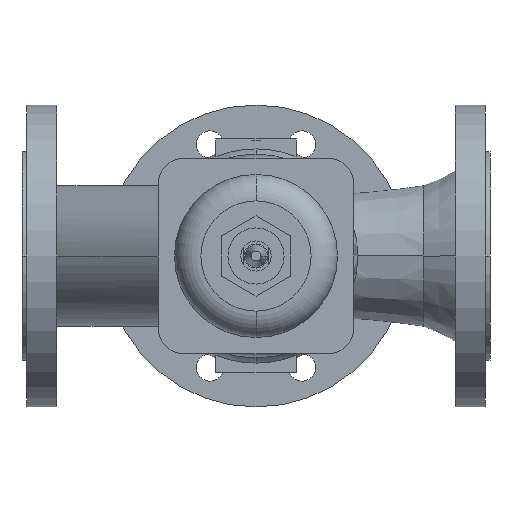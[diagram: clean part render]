
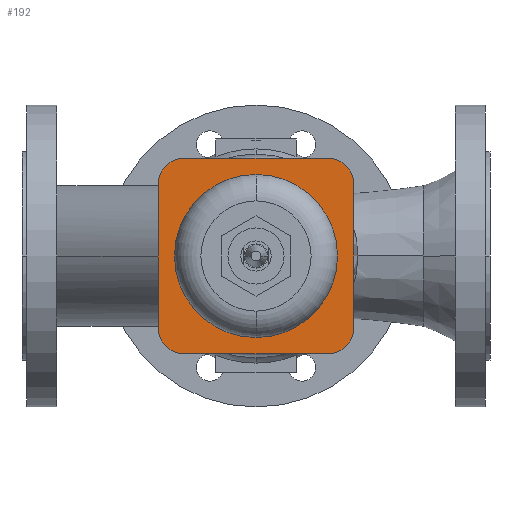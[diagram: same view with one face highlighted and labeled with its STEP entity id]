
A CAD part, front view. The second image highlights one B-rep face of the part: STEP entity #192.
In plain terms, the highlighted planar face has unit normal (0, -1, 0).
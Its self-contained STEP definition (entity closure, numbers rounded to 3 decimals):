
#192 = ADVANCED_FACE( '', ( #521, #522 ), #523, .T. );
#521 = FACE_OUTER_BOUND( '', #941, .T. );
#522 = FACE_BOUND( '', #942, .T. );
#523 = PLANE( '', #943 );
#941 = EDGE_LOOP( '', ( #2004, #2005, #2006, #2007, #2008, #2009, #2010, #2011 ) );
#942 = EDGE_LOOP( '', ( #2012, #2013 ) );
#943 = AXIS2_PLACEMENT_3D( '', #2014, #2015, #2016 );
#2004 = ORIENTED_EDGE( '', *, *, #2875, .T. );
#2005 = ORIENTED_EDGE( '', *, *, #2867, .T. );
#2006 = ORIENTED_EDGE( '', *, *, #2858, .T. );
#2007 = ORIENTED_EDGE( '', *, *, #2849, .T. );
#2008 = ORIENTED_EDGE( '', *, *, #2843, .T. );
#2009 = ORIENTED_EDGE( '', *, *, #2884, .T. );
#2010 = ORIENTED_EDGE( '', *, *, #2881, .T. );
#2011 = ORIENTED_EDGE( '', *, *, #2878, .T. );
#2012 = ORIENTED_EDGE( '', *, *, #2677, .F. );
#2013 = ORIENTED_EDGE( '', *, *, #2887, .F. );
#2014 = CARTESIAN_POINT( '', ( 85.25, -168.62, 0. ) );
#2015 = DIRECTION( '', ( 0., -1., 0. ) );
#2016 = DIRECTION( '', ( -1., 0., 0. ) );
#2677 = EDGE_CURVE( '', #3264, #3267, #3268, .T. );
#2843 = EDGE_CURVE( '', #3539, #3537, #3540, .T. );
#2849 = EDGE_CURVE( '', #3549, #3539, #3550, .T. );
#2858 = EDGE_CURVE( '', #3564, #3549, #3565, .T. );
#2867 = EDGE_CURVE( '', #3579, #3564, #3580, .T. );
#2875 = EDGE_CURVE( '', #3591, #3579, #3592, .T. );
#2878 = EDGE_CURVE( '', #3596, #3591, #3597, .T. );
#2881 = EDGE_CURVE( '', #3601, #3596, #3602, .T. );
#2884 = EDGE_CURVE( '', #3537, #3601, #3605, .T. );
#2887 = EDGE_CURVE( '', #3267, #3264, #3608, .T. );
#3264 = VERTEX_POINT( '', #4356 );
#3267 = VERTEX_POINT( '', #4360 );
#3268 = CIRCLE( '', #4361, 54. );
#3537 = VERTEX_POINT( '', #4702 );
#3539 = VERTEX_POINT( '', #4705 );
#3540 = LINE( '', #4706, #4707 );
#3549 = VERTEX_POINT( '', #4718 );
#3550 = CIRCLE( '', #4719, 17. );
#3564 = VERTEX_POINT( '', #4739 );
#3565 = LINE( '', #4740, #4741 );
#3579 = VERTEX_POINT( '', #4760 );
#3580 = CIRCLE( '', #4761, 17. );
#3591 = VERTEX_POINT( '', #4777 );
#3592 = LINE( '', #4778, #4779 );
#3596 = VERTEX_POINT( '', #4784 );
#3597 = CIRCLE( '', #4785, 17. );
#3601 = VERTEX_POINT( '', #4791 );
#3602 = LINE( '', #4792, #4793 );
#3605 = CIRCLE( '', #4797, 17. );
#3608 = CIRCLE( '', #4800, 54. );
#4356 = CARTESIAN_POINT( '', ( 101., -168.62, 0. ) );
#4360 = CARTESIAN_POINT( '', ( 209., -168.62, 0. ) );
#4361 = AXIS2_PLACEMENT_3D( '', #5420, #5421, #5422 );
#4702 = CARTESIAN_POINT( '', ( 219.73, -168.62, 47.73 ) );
#4705 = CARTESIAN_POINT( '', ( 219.73, -168.62, -47.73 ) );
#4706 = CARTESIAN_POINT( '', ( 219.73, -168.62, 23.865 ) );
#4707 = VECTOR( '', #5772, 1. );
#4718 = CARTESIAN_POINT( '', ( 202.73, -168.62, -64.73 ) );
#4719 = AXIS2_PLACEMENT_3D( '', #5784, #5785, #5786 );
#4739 = CARTESIAN_POINT( '', ( 107.27, -168.62, -64.73 ) );
#4740 = CARTESIAN_POINT( '', ( 120.125, -168.62, -64.73 ) );
#4741 = VECTOR( '', #5799, 1. );
#4760 = CARTESIAN_POINT( '', ( 90.27, -168.62, -47.73 ) );
#4761 = AXIS2_PLACEMENT_3D( '', #5814, #5815, #5816 );
#4777 = CARTESIAN_POINT( '', ( 90.27, -168.62, 47.73 ) );
#4778 = CARTESIAN_POINT( '', ( 90.27, -168.62, -23.865 ) );
#4779 = VECTOR( '', #5828, 1. );
#4784 = CARTESIAN_POINT( '', ( 107.27, -168.62, 64.73 ) );
#4785 = AXIS2_PLACEMENT_3D( '', #5833, #5834, #5835 );
#4791 = CARTESIAN_POINT( '', ( 202.73, -168.62, 64.73 ) );
#4792 = CARTESIAN_POINT( '', ( 96.26, -168.62, 64.73 ) );
#4793 = VECTOR( '', #5838, 1. );
#4797 = AXIS2_PLACEMENT_3D( '', #5843, #5844, #5845 );
#4800 = AXIS2_PLACEMENT_3D( '', #5852, #5853, #5854 );
#5420 = CARTESIAN_POINT( '', ( 155., -168.62, 0. ) );
#5421 = DIRECTION( '', ( 0., -1., 0. ) );
#5422 = DIRECTION( '', ( -1., 0., 0. ) );
#5772 = DIRECTION( '', ( 0., 0., 1. ) );
#5784 = CARTESIAN_POINT( '', ( 202.73, -168.62, -47.73 ) );
#5785 = DIRECTION( '', ( 0., -1., 0. ) );
#5786 = DIRECTION( '', ( 1., 0., 0. ) );
#5799 = DIRECTION( '', ( 1., 0., 0. ) );
#5814 = CARTESIAN_POINT( '', ( 107.27, -168.62, -47.73 ) );
#5815 = DIRECTION( '', ( 0., -1., 0. ) );
#5816 = DIRECTION( '', ( 0., 0., -1. ) );
#5828 = DIRECTION( '', ( 0., 0., -1. ) );
#5833 = CARTESIAN_POINT( '', ( 107.27, -168.62, 47.73 ) );
#5834 = DIRECTION( '', ( 0., -1., 0. ) );
#5835 = DIRECTION( '', ( -1., 0., 0. ) );
#5838 = DIRECTION( '', ( -1., 0., 0. ) );
#5843 = CARTESIAN_POINT( '', ( 202.73, -168.62, 47.73 ) );
#5844 = DIRECTION( '', ( 0., -1., 0. ) );
#5845 = DIRECTION( '', ( 0., 0., 1. ) );
#5852 = CARTESIAN_POINT( '', ( 155., -168.62, 0. ) );
#5853 = DIRECTION( '', ( 0., -1., 0. ) );
#5854 = DIRECTION( '', ( -1., 0., 0. ) );
